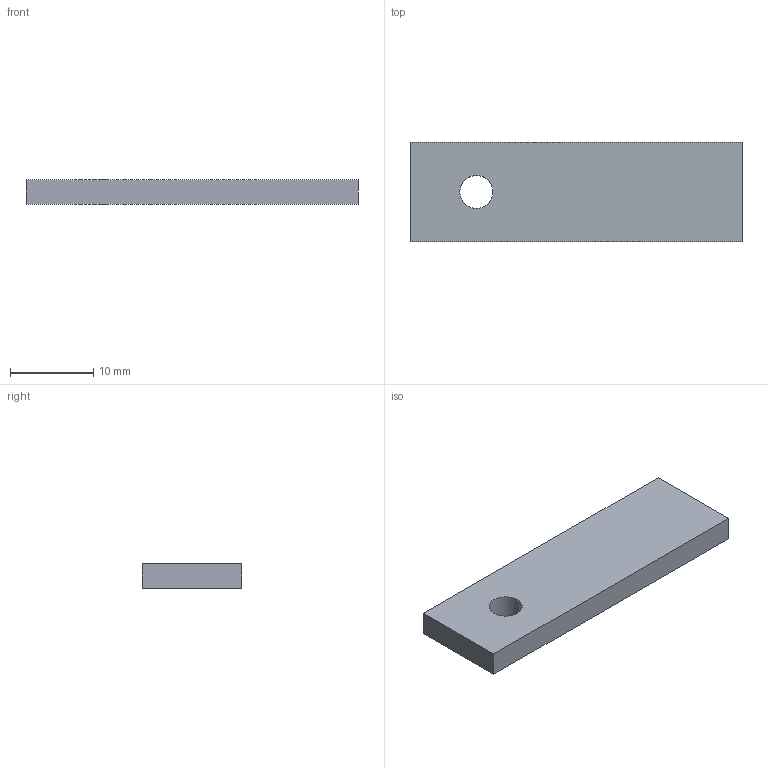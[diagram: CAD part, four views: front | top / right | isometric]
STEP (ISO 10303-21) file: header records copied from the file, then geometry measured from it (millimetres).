
FILE_DESCRIPTION(('Open CASCADE Model'),'2;1');
FILE_NAME('Open CASCADE Shape Model','2026-10-19T10:09:21',('Author'),( 'Open CASCADE'),'Open CASCADE STEP processor 8.0','Open CASCADE 8.0' ,'Unknown');
FILE_SCHEMA(('AUTOMOTIVE_DESIGN { 1 0 10303 214 1 1 1 1 }'));
Length unit declared in the file: millimetre
Products named in the file (1): TC17_OJAL_CABLE_40x12x3_P05 118
Bounding box: 40 x 12 x 3 mm (x, y, z)
Volume: 1402.3 mm3; surface area: 1284.6 mm2
Topology: 1 solids, 1 shells, 7 faces, 15 edges, 10 vertices
Faces by surface type: plane 6, cylinder 1
Full cylindrical faces by diameter (mm): 4 x1
Entity records: 406 total; most frequent: CARTESIAN_POINT 75, DIRECTION 61, LINE 41, VECTOR 41, ORIENTED_EDGE 30, PCURVE 30, DEFINITIONAL_REPRESENTATION 30, EDGE_CURVE 15
